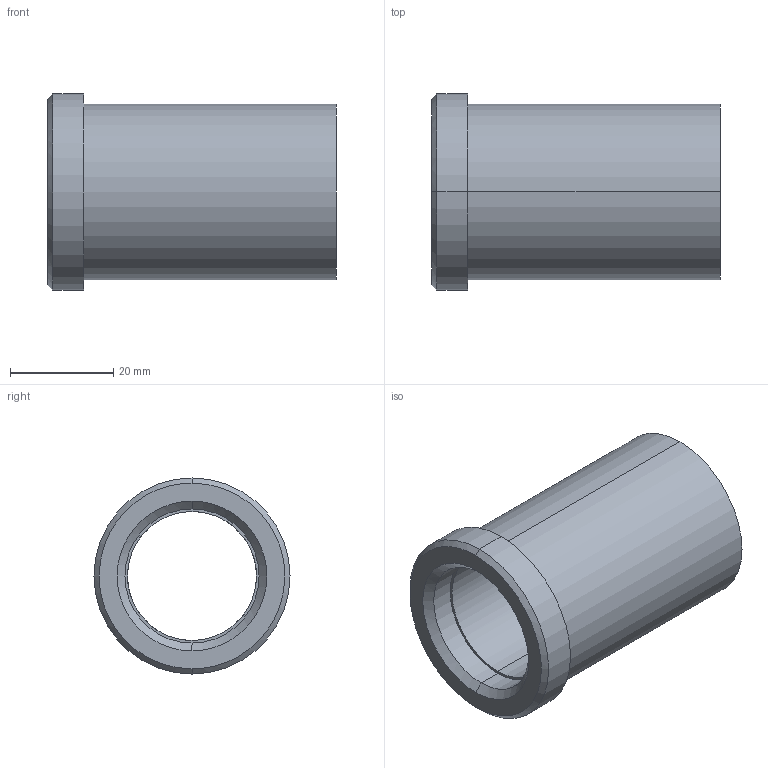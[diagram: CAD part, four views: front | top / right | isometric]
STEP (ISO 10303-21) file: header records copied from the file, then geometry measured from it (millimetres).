
FILE_DESCRIPTION(('CATIA V5 STEP Exchange'),'2;1');
FILE_NAME('C:\Users\Utente\Desktop\IO LAVORO\3D X SITO CF\X SITO\PLASTICA\353\353-25X56.stp','2021-05-12T18:45:02+00:00',('none'),('none'),'CATIA Version 5 Release 20 GA (IN-10)','CATIA V5 STEP AP203','none');
FILE_SCHEMA(('CONFIG_CONTROL_DESIGN'));
Length unit declared in the file: millimetre
Products named in the file (1): 353-25X56
Bounding box: 56 x 38 x 38 mm (x, y, z)
Volume: 24473.7 mm3; surface area: 11567.4 mm2
Topology: 1 solids, 1 shells, 18 faces, 58 edges, 44 vertices
Faces by surface type: cylinder 8, plane 4, cone 4, torus 2
Entity records: 840 total; most frequent: CARTESIAN_POINT 289, ORIENTED_EDGE 116, DIRECTION 82, EDGE_CURVE 58, AXIS2_PLACEMENT_3D 53, VERTEX_POINT 44, CIRCLE 34, EDGE_LOOP 22
